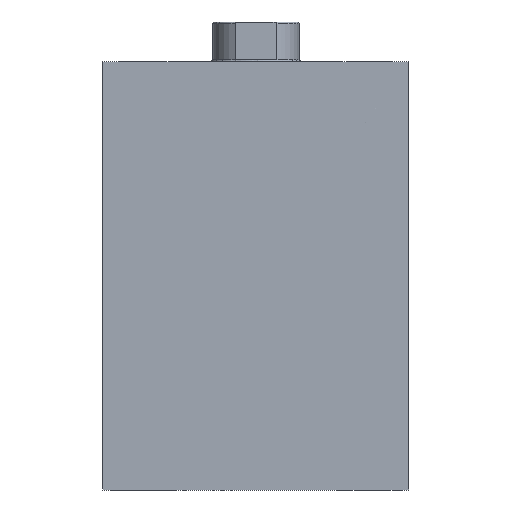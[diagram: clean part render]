
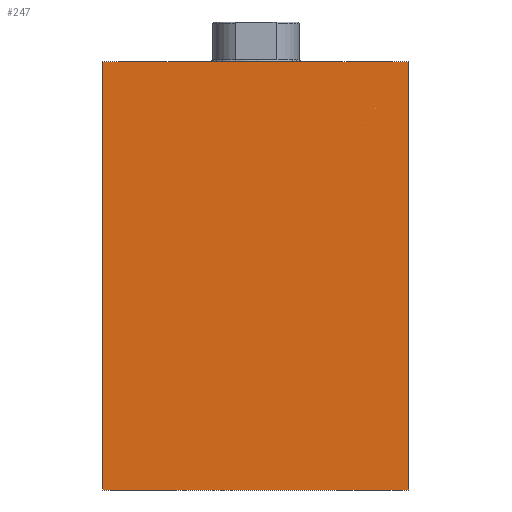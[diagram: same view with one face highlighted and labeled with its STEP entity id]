
A CAD part, left-side view. The second image highlights one B-rep face of the part: STEP entity #247.
In plain terms, the highlighted planar face has unit normal (-1, 0, 0) as drawn and (0, 0, -1) by its records, which use the part's own axes.
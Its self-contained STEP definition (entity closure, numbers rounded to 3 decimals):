
#247 = ADVANCED_FACE( '', ( #338 ), #339, .F. );
#338 = FACE_OUTER_BOUND( '', #554, .T. );
#339 = PLANE( '', #555 );
#554 = EDGE_LOOP( '', ( #789, #790, #791, #792 ) );
#555 = AXIS2_PLACEMENT_3D( '', #793, #794, #795 );
#789 = ORIENTED_EDGE( '', *, *, #1166, .T. );
#790 = ORIENTED_EDGE( '', *, *, #1183, .F. );
#791 = ORIENTED_EDGE( '', *, *, #1178, .F. );
#792 = ORIENTED_EDGE( '', *, *, #1182, .T. );
#793 = CARTESIAN_POINT( '', ( 119., -42.5, -31.5 ) );
#794 = DIRECTION( '', ( 0., 0., 1. ) );
#795 = DIRECTION( '', ( 1., 0., 0. ) );
#1166 = EDGE_CURVE( '', #1267, #1265, #1268, .T. );
#1178 = EDGE_CURVE( '', #1287, #1289, #1290, .T. );
#1182 = EDGE_CURVE( '', #1287, #1267, #1296, .T. );
#1183 = EDGE_CURVE( '', #1289, #1265, #1297, .T. );
#1265 = VERTEX_POINT( '', #1510 );
#1267 = VERTEX_POINT( '', #1513 );
#1268 = LINE( '', #1514, #1515 );
#1287 = VERTEX_POINT( '', #1706 );
#1289 = VERTEX_POINT( '', #1709 );
#1290 = LINE( '', #1710, #1711 );
#1296 = B_SPLINE_CURVE_WITH_KNOTS( '', 1, ( #1784, #1785 ), .UNSPECIFIED., .F., .F., ( 2, 2 ), ( 0., 1. ), .UNSPECIFIED. );
#1297 = B_SPLINE_CURVE_WITH_KNOTS( '', 1, ( #1786, #1787 ), .UNSPECIFIED., .F., .F., ( 2, 2 ), ( 0., 1. ), .UNSPECIFIED. );
#1510 = CARTESIAN_POINT( '', ( 0., 42.5, -31.5 ) );
#1513 = CARTESIAN_POINT( '', ( 0., -42.5, -31.5 ) );
#1514 = CARTESIAN_POINT( '', ( 0., -42.5, -31.5 ) );
#1515 = VECTOR( '', #4022, 1000. );
#1706 = CARTESIAN_POINT( '', ( 119., -42.5, -31.5 ) );
#1709 = CARTESIAN_POINT( '', ( 119., 42.5, -31.5 ) );
#1710 = CARTESIAN_POINT( '', ( 119., -42.5, -31.5 ) );
#1711 = VECTOR( '', #4029, 1000. );
#1784 = CARTESIAN_POINT( '', ( 119., -42.5, -31.5 ) );
#1785 = CARTESIAN_POINT( '', ( 0., -42.5, -31.5 ) );
#1786 = CARTESIAN_POINT( '', ( 119., 42.5, -31.5 ) );
#1787 = CARTESIAN_POINT( '', ( 0., 42.5, -31.5 ) );
#4022 = DIRECTION( '', ( 0., 1., 0. ) );
#4029 = DIRECTION( '', ( 0., 1., 0. ) );
